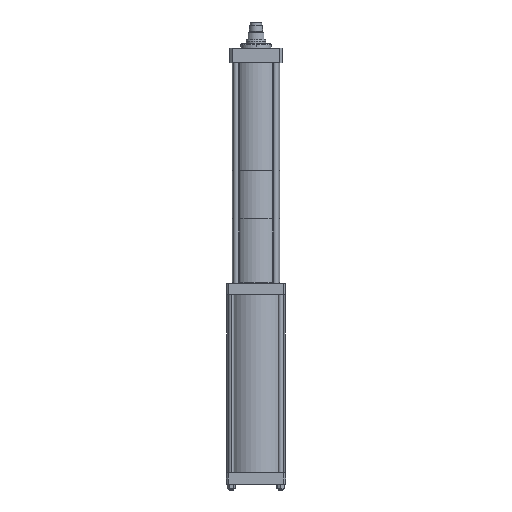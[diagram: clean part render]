
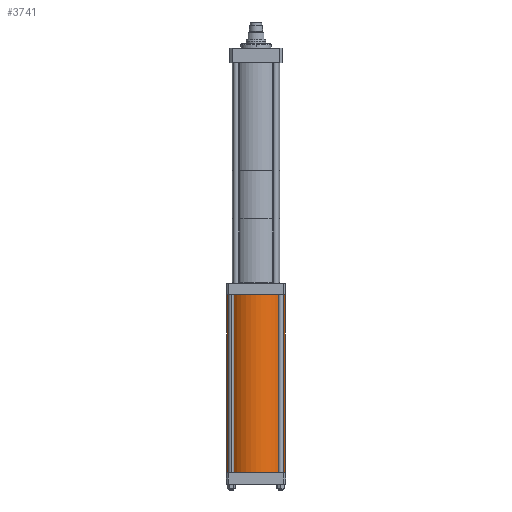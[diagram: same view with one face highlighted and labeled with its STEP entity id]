
A CAD part, front view. The second image highlights one B-rep face of the part: STEP entity #3741.
In plain terms, the highlighted cylindrical face has radius 67.5 mm (diameter 135 mm), a partial arc.
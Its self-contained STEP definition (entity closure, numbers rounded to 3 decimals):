
#142 = DIRECTION ( 'NONE',  ( 0., 0., 1. ) ) ;
#155 = EDGE_LOOP ( 'NONE', ( #17646, #3215, #2923, #17670 ) ) ;
#179 = AXIS2_PLACEMENT_3D ( 'NONE', #245, #142, #12396 ) ;
#234 = EDGE_CURVE ( 'NONE', #4998, #1952, #15828, .T. ) ;
#245 = CARTESIAN_POINT ( 'NONE',  ( 0., 0., -205. ) ) ;
#339 = EDGE_CURVE ( 'NONE', #4325, #4998, #5944, .T. ) ;
#462 = CIRCLE ( 'NONE', #15808, 67.5 ) ;
#1775 = CARTESIAN_POINT ( 'NONE',  ( -67.5, 0., 205. ) ) ;
#1858 = DIRECTION ( 'NONE',  ( 0., 0., -1. ) ) ;
#1952 = VERTEX_POINT ( 'NONE', #7134 ) ;
#2324 = DIRECTION ( 'NONE',  ( -1., 0., 0. ) ) ;
#2460 = CARTESIAN_POINT ( 'NONE',  ( -67.5, 0., 205. ) ) ;
#2595 = DIRECTION ( 'NONE',  ( 0., 0., -1. ) ) ;
#2923 = ORIENTED_EDGE ( 'NONE', *, *, #339, .T. ) ;
#3215 = ORIENTED_EDGE ( 'NONE', *, *, #14505, .F. ) ;
#3669 = CARTESIAN_POINT ( 'NONE',  ( 67.5, 0., 205. ) ) ;
#3741 = ADVANCED_FACE ( 'NONE', ( #15882 ), #17647, .T. ) ;
#3946 = CARTESIAN_POINT ( 'NONE',  ( 67.5, 0., 205. ) ) ;
#4325 = VERTEX_POINT ( 'NONE', #2460 ) ;
#4998 = VERTEX_POINT ( 'NONE', #7596 ) ;
#5159 = CARTESIAN_POINT ( 'NONE',  ( 0., 0., 205. ) ) ;
#5944 = LINE ( 'NONE', #1775, #10582 ) ;
#6214 = EDGE_CURVE ( 'NONE', #6476, #1952, #15202, .T. ) ;
#6476 = VERTEX_POINT ( 'NONE', #3669 ) ;
#6511 = DIRECTION ( 'NONE',  ( 1., 0., 0. ) ) ;
#7086 = VECTOR ( 'NONE', #16289, 1000. ) ;
#7134 = CARTESIAN_POINT ( 'NONE',  ( 67.5, 0., -205. ) ) ;
#7596 = CARTESIAN_POINT ( 'NONE',  ( -67.5, 0., -205. ) ) ;
#7856 = CARTESIAN_POINT ( 'NONE',  ( 0., 0., 205. ) ) ;
#10269 = DIRECTION ( 'NONE',  ( 0., 0., 1. ) ) ;
#10582 = VECTOR ( 'NONE', #1858, 1000. ) ;
#12396 = DIRECTION ( 'NONE',  ( 1., 0., 0. ) ) ;
#13972 = AXIS2_PLACEMENT_3D ( 'NONE', #7856, #2595, #2324 ) ;
#14505 = EDGE_CURVE ( 'NONE', #4325, #6476, #462, .T. ) ;
#15202 = LINE ( 'NONE', #3946, #7086 ) ;
#15808 = AXIS2_PLACEMENT_3D ( 'NONE', #5159, #10269, #6511 ) ;
#15828 = CIRCLE ( 'NONE', #179, 67.5 ) ;
#15882 = FACE_OUTER_BOUND ( 'NONE', #155, .T. ) ;
#16289 = DIRECTION ( 'NONE',  ( 0., 0., -1. ) ) ;
#17646 = ORIENTED_EDGE ( 'NONE', *, *, #6214, .F. ) ;
#17647 = CYLINDRICAL_SURFACE ( 'NONE', #13972, 67.5 ) ;
#17670 = ORIENTED_EDGE ( 'NONE', *, *, #234, .T. ) ;
